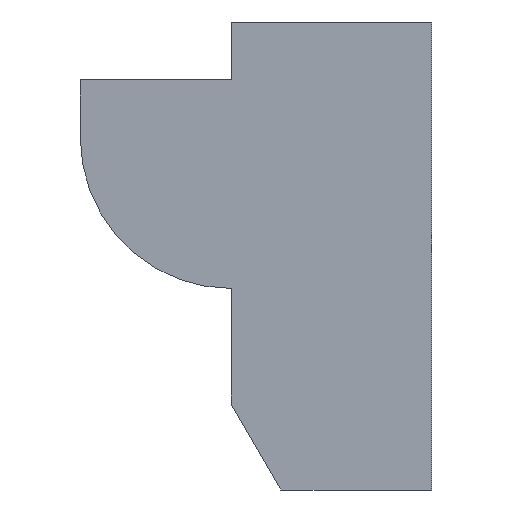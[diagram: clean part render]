
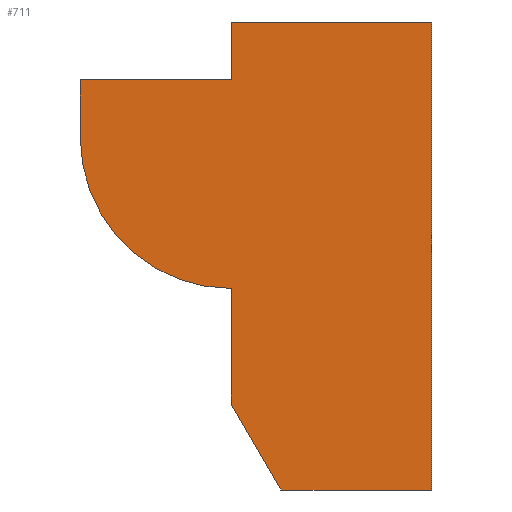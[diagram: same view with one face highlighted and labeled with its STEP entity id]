
A CAD part, front view. The second image highlights one B-rep face of the part: STEP entity #711.
In plain terms, the highlighted planar face has unit normal (0, -1, 0).
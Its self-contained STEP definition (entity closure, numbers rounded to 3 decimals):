
#46=FACE_OUTER_BOUND('',#85,.T.);
#85=EDGE_LOOP('',(#529,#530,#531,#532,#533,#534,#535,#536,#537));
#122=CIRCLE('',#784,3160.);
#139=LINE('',#1038,#216);
#149=LINE('',#1065,#226);
#162=LINE('',#1107,#239);
#173=LINE('',#1129,#250);
#176=LINE('',#1136,#253);
#177=LINE('',#1138,#254);
#178=LINE('',#1140,#255);
#179=LINE('',#1141,#256);
#216=VECTOR('',#829,10.);
#226=VECTOR('',#849,10.);
#239=VECTOR('',#890,10.);
#250=VECTOR('',#907,10.);
#253=VECTOR('',#914,10.);
#254=VECTOR('',#915,10.);
#255=VECTOR('',#916,10.);
#256=VECTOR('',#917,10.);
#293=VERTEX_POINT('',#1036);
#294=VERTEX_POINT('',#1037);
#306=VERTEX_POINT('',#1063);
#320=VERTEX_POINT('',#1105);
#321=VERTEX_POINT('',#1106);
#329=VERTEX_POINT('',#1128);
#331=VERTEX_POINT('',#1134);
#332=VERTEX_POINT('',#1137);
#333=VERTEX_POINT('',#1139);
#361=EDGE_CURVE('',#293,#294,#139,.T.);
#375=EDGE_CURVE('',#294,#306,#149,.T.);
#395=EDGE_CURVE('',#320,#321,#162,.T.);
#406=EDGE_CURVE('',#329,#320,#173,.T.);
#409=EDGE_CURVE('',#306,#331,#122,.T.);
#410=EDGE_CURVE('',#331,#329,#176,.T.);
#411=EDGE_CURVE('',#321,#332,#177,.T.);
#412=EDGE_CURVE('',#332,#333,#178,.T.);
#413=EDGE_CURVE('',#333,#293,#179,.T.);
#529=ORIENTED_EDGE('',*,*,#361,.T.);
#530=ORIENTED_EDGE('',*,*,#375,.T.);
#531=ORIENTED_EDGE('',*,*,#409,.T.);
#532=ORIENTED_EDGE('',*,*,#410,.T.);
#533=ORIENTED_EDGE('',*,*,#406,.T.);
#534=ORIENTED_EDGE('',*,*,#395,.T.);
#535=ORIENTED_EDGE('',*,*,#411,.T.);
#536=ORIENTED_EDGE('',*,*,#412,.T.);
#537=ORIENTED_EDGE('',*,*,#413,.T.);
#685=PLANE('',#783);
#711=ADVANCED_FACE('',(#46),#685,.T.);
#783=AXIS2_PLACEMENT_3D('',#1133,#910,#911);
#784=AXIS2_PLACEMENT_3D('',#1135,#912,#913);
#829=DIRECTION('',(-1.,0.,0.));
#849=DIRECTION('',(0.,0.,-1.));
#890=DIRECTION('',(1.,0.,0.));
#907=DIRECTION('',(0.5,0.,-0.866));
#910=DIRECTION('center_axis',(0.,-1.,0.));
#911=DIRECTION('ref_axis',(0.,0.,-1.));
#912=DIRECTION('center_axis',(0.,-1.,0.));
#913=DIRECTION('ref_axis',(-1.,0.,0.));
#914=DIRECTION('',(0.,0.,-1.));
#915=DIRECTION('',(0.,0.,1.));
#916=DIRECTION('',(-1.,0.,0.));
#917=DIRECTION('',(0.,0.,-1.));
#1036=CARTESIAN_POINT('',(0.,-200.,2790.));
#1037=CARTESIAN_POINT('',(-3160.,-200.,2790.));
#1038=CARTESIAN_POINT('',(-1904.548,-200.,2790.));
#1063=CARTESIAN_POINT('',(-3160.,-200.,1580.));
#1065=CARTESIAN_POINT('',(-3160.,-200.,4000.));
#1105=CARTESIAN_POINT('',(1039.23,-200.,-5800.));
#1106=CARTESIAN_POINT('',(4200.,-200.,-5800.));
#1107=CARTESIAN_POINT('',(1039.23,-200.,-5800.));
#1128=CARTESIAN_POINT('',(0.,-200.,-4000.));
#1129=CARTESIAN_POINT('',(0.,-200.,-4000.));
#1133=CARTESIAN_POINT('Origin',(520.,-200.,0.));
#1134=CARTESIAN_POINT('',(0.,-200.,-1580.));
#1135=CARTESIAN_POINT('Origin',(0.,-200.,1580.));
#1136=CARTESIAN_POINT('',(0.,-200.,-1580.));
#1137=CARTESIAN_POINT('',(4200.,-200.,4000.));
#1138=CARTESIAN_POINT('',(4200.,-200.,-5800.));
#1139=CARTESIAN_POINT('',(0.,-200.,4000.));
#1140=CARTESIAN_POINT('',(4200.,-200.,4000.));
#1141=CARTESIAN_POINT('',(0.,-200.,1395.));
